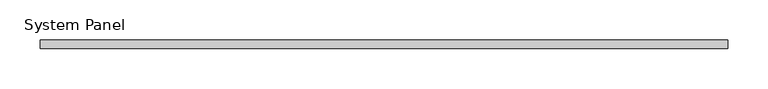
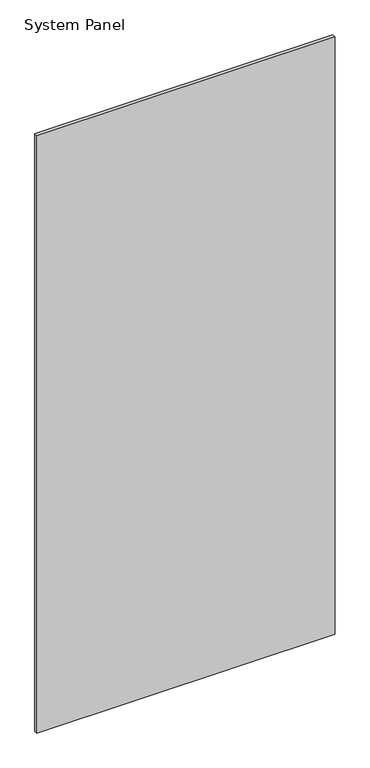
"""IFC4 building model written with IfcOpenShell, lengths in millimetres: plate geometry, System Panel : стекло_смещение_0."""

import ifcopenshell
import ifcopenshell.guid

model = None  # the IFC model being written
_history = None  # IfcOwnerHistory: only IFC2X3 demands one
_inside = {}  # id of a spatial element -> (the spatial element, [elements in it])
_under = {}  # id of a project, library or spatial element -> (it, [spatial elements below it])
_declared = {}  # id of a project -> (the project, [libraries it declares])
_typed = {}  # id of a type object -> (the type object, [elements of that type])
_made_of = {}  # id of a material, layer set ... -> (it, [elements and type objects made of it])


def new_model(schema):
    """Start an empty IFC model of exactly this schema.

    Asked for "IFC4X3", IfcOpenShell would pick the latest addendum, in which some entities
    have other attributes; the version numbers below select the first issue.
    IFC2X3 requires an IfcOwnerHistory on every rooted entity: one is made here for all.
    """
    global model, _history
    if schema == "IFC4X3":
        model = ifcopenshell.file(schema_version=(4, 3, 0, 0))
    else:
        model = ifcopenshell.file(schema=schema)
    _inside.clear()
    _under.clear()
    _declared.clear()
    _typed.clear()
    _made_of.clear()
    _history = None
    if model.schema == "IFC2X3":
        org = make("IfcOrganization", Name="unknown")
        user = make(
            "IfcPersonAndOrganization",
            ThePerson=make("IfcPerson", FamilyName="unknown"),
            TheOrganization=org,
        )
        app = make(
            "IfcApplication",
            ApplicationDeveloper=org,
            Version="unknown",
            ApplicationFullName="unknown",
            ApplicationIdentifier="unknown",
        )
        _history = make(
            "IfcOwnerHistory",
            OwningUser=user,
            OwningApplication=app,
            ChangeAction="ADDED",
            CreationDate=0,
        )
    return model


def make(cls, **values):
    """One entity of the class cls with the attributes given. An attribute that is None is left unset."""
    return model.create_entity(
        cls, **{name: value for name, value in values.items() if value is not None}
    )


def rooted(cls, **values):
    """An entity with a GlobalId (a new one), such as an element, a storey or a relation."""
    return make(cls, GlobalId=ifcopenshell.guid.new(), OwnerHistory=_history, **values)


def si_unit(unit_type, name, prefix=None):
    """IfcSIUnit, for example si_unit("LENGTHUNIT", "METRE", prefix="MILLI")."""
    return make("IfcSIUnit", UnitType=unit_type, Prefix=prefix, Name=name)


def assignment(units):
    """IfcUnitAssignment: the units of a project."""
    return None if units is None else make("IfcUnitAssignment", Units=units)


def point(xyz):
    """IfcCartesianPoint."""
    return None if xyz is None else make("IfcCartesianPoint", Coordinates=xyz)


def direction(xyz):
    """IfcDirection."""
    return None if xyz is None else make("IfcDirection", DirectionRatios=xyz)


def frame(location, z_axis=None, x_axis=None):
    """IfcAxis2Placement3D, a coordinate frame: its origin and axes. An axis left out is left unset."""
    return make(
        "IfcAxis2Placement3D",
        Location=point(location),
        Axis=direction(z_axis),
        RefDirection=direction(x_axis),
    )


def origin():
    """The frame at (0, 0, 0) with its axes left unset."""
    return frame((0.0, 0.0, 0.0))


def origin_with_axes():
    """The frame at (0, 0, 0) with the z axis (0, 0, 1) and the x axis (1, 0, 0) written out."""
    return frame((0.0, 0.0, 0.0), z_axis=(0.0, 0.0, 1.0), x_axis=(1.0, 0.0, 0.0))


def place(relative_to, where):
    """IfcLocalPlacement: puts the frame where relative to a parent placement (None: the world)."""
    return make(
        "IfcLocalPlacement", PlacementRelTo=relative_to, RelativePlacement=where
    )


def context(
    kind, dimensions, precision=None, world=None, true_north=None, identifier=None
):
    """IfcGeometricRepresentationContext, for example the 3D "Model" context."""
    return make(
        "IfcGeometricRepresentationContext",
        ContextIdentifier=identifier,
        ContextType=kind,
        CoordinateSpaceDimension=dimensions,
        Precision=precision,
        WorldCoordinateSystem=world,
        TrueNorth=true_north,
    )


def project(units=None, contexts=None):
    """IfcProject with its units and contexts."""
    return rooted(
        "IfcProject",
        Name="project",
        RepresentationContexts=contexts,
        UnitsInContext=assignment(units),
    )


def spatial(cls, under=None, at=None, **own):
    """A site, building, storey or space (cls), placed at a placement, below another one or the project."""
    s = rooted(cls, ObjectPlacement=at, **own)
    if under is not None:
        _under.setdefault(under.id(), (under, []))[1].append(s)
    return s


def polyline(points):
    """IfcPolyline through the points."""
    return make("IfcPolyline", Points=[point(p) for p in points])


def outline(outer, holes=None, kind="AREA"):
    """IfcArbitraryClosedProfileDef: a profile drawn as a closed curve; with holes, ...WithVoids."""
    if holes is None:
        return make("IfcArbitraryClosedProfileDef", ProfileType=kind, OuterCurve=outer)
    return make(
        "IfcArbitraryProfileDefWithVoids",
        ProfileType=kind,
        OuterCurve=outer,
        InnerCurves=holes,
    )


def extrude(swept, where, along, depth):
    """IfcExtrudedAreaSolid: the profile swept, set in the frame where, extruded along a direction by depth."""
    return make(
        "IfcExtrudedAreaSolid",
        SweptArea=swept,
        Position=where,
        ExtrudedDirection=direction(along),
        Depth=depth,
    )


def shape(context_of_items, identifier, shape_type, items):
    """IfcShapeRepresentation: the items that make up one representation, for example the "Body"."""
    return make(
        "IfcShapeRepresentation",
        ContextOfItems=context_of_items,
        RepresentationIdentifier=identifier,
        RepresentationType=shape_type,
        Items=items,
    )


def source(mapping_origin, context_of_items, identifier, shape_type, items):
    """IfcRepresentationMap: a shape defined once, which mapped items show again and again."""
    return make(
        "IfcRepresentationMap",
        MappingOrigin=mapping_origin,
        MappedRepresentation=shape(context_of_items, identifier, shape_type, items),
    )


def transform(
    local_origin,
    x_axis=None,
    y_axis=None,
    z_axis=None,
    scale=None,
    scale2=None,
    scale3=None,
    uniform=True,
):
    """IfcCartesianTransformationOperator3D, or its non-uniform kind. x_axis, y_axis, z_axis: its Axis1, 2, 3."""
    if uniform:
        return make(
            "IfcCartesianTransformationOperator3D",
            Axis1=direction(x_axis),
            Axis2=direction(y_axis),
            LocalOrigin=point(local_origin),
            Scale=scale,
            Axis3=direction(z_axis),
        )
    return make(
        "IfcCartesianTransformationOperator3DnonUniform",
        Axis1=direction(x_axis),
        Axis2=direction(y_axis),
        LocalOrigin=point(local_origin),
        Scale=scale,
        Axis3=direction(z_axis),
        Scale2=scale2,
        Scale3=scale3,
    )


def mapped(mapping_source, mapping_target):
    """IfcMappedItem: shows the shape of a source again, moved by a transform."""
    return make(
        "IfcMappedItem", MappingSource=mapping_source, MappingTarget=mapping_target
    )


def made_of(thing, what):
    """Note that an element or type object is made of a material, layer set ...; save() writes the relation."""
    if what is not None:
        _made_of.setdefault(what.id(), (what, []))[1].append(thing)
    return thing


def element(
    cls,
    number,
    at=None,
    inside=None,
    cuts=None,
    type_object=None,
    material=None,
    context=None,
    identifier="Body",
    shape_type=None,
    held_by="IfcProductDefinitionShape",
    body=None,
    shapes=None,
    **own,
):
    """One element of the class cls, such as IfcWall. Its Tag is "e" and its number.

    at: its placement. inside: the storey or other place that contains it. cuts: it is an
    opening in that element (IfcRelVoidsElement). A single representation is given by context,
    identifier, shape_type and body (its items); several are given by shapes. held_by: the class
    of the entity that holds the representations. save() writes the other relations.
    """
    e = rooted(cls, Tag="e%d" % number, ObjectPlacement=at, **own)
    if body is not None:
        shapes = [shape(context, identifier, shape_type, body)]
    if shapes is not None:
        e.Representation = make(held_by, Representations=shapes)
    if inside is not None:
        _inside.setdefault(inside.id(), (inside, []))[1].append(e)
    if cuts is not None:
        rooted(
            "IfcRelVoidsElement", RelatingBuildingElement=cuts, RelatedOpeningElement=e
        )
    if type_object is not None:
        _typed.setdefault(type_object.id(), (type_object, []))[1].append(e)
    return made_of(e, material)


def aggregate(whole, parts):
    """IfcRelAggregates: a whole, such as a stair, and the parts it consists of."""
    return rooted("IfcRelAggregates", RelatingObject=whole, RelatedObjects=parts)


def save(model, path):
    """Write the relations noted so far, then the file.

    IfcRelAggregates (storeys below a building ...), IfcRelContainedInSpatialStructure (elements
    in a storey), IfcRelDefinesByType, IfcRelAssociatesMaterial and IfcRelDeclares: one each for
    every whole, place, type object, material and project.
    """
    for whole, parts in _under.values():
        aggregate(whole, parts)
    for where, things in _inside.values():
        rooted(
            "IfcRelContainedInSpatialStructure",
            RelatedElements=things,
            RelatingStructure=where,
        )
    for kind, things in _typed.values():
        rooted("IfcRelDefinesByType", RelatedObjects=things, RelatingType=kind)
    for what, things in _made_of.values():
        rooted("IfcRelAssociatesMaterial", RelatedObjects=things, RelatingMaterial=what)
    for by, libraries in _declared.values():
        rooted("IfcRelDeclares", RelatingContext=by, RelatedDefinitions=libraries)
    model.write(path)


def system_panel_b401980b(model_context):
    return source(origin(), model_context, "Body", "SweptSolid", [
        extrude(outline(polyline([(425.0, -5.0), (-425.0, -5.0), (-425.0, 5.0), (425.0, 5.0), (425.0, -5.0)])), origin_with_axes(), (0.0, 0.0, 1.0), 1800.0),
    ])


if __name__ == "__main__":
    model = new_model("IFC4")
    model_context = context("Model", 3, world=origin())
    ifc_project = project(units=[si_unit("LENGTHUNIT", "METRE", prefix="MILLI")], contexts=[model_context])
    site = spatial("IfcSite", under=ifc_project)
    building = spatial("IfcBuilding", under=site)
    placement = place(None, origin())
    system_panel_shape = system_panel_b401980b(model_context)
    element("IfcPlate", 1, ObjectType="System Panel : стекло_смещение_0", at=placement, inside=building, context=model_context, shape_type="MappedRepresentation", body=[
        mapped(system_panel_shape, transform((0.0, 0.0, 0.0), x_axis=(1.0, 0.0, 0.0), y_axis=(0.0, 1.0, 0.0), z_axis=(0.0, 0.0, 1.0))),
    ])
    save(model, "model.ifc")
